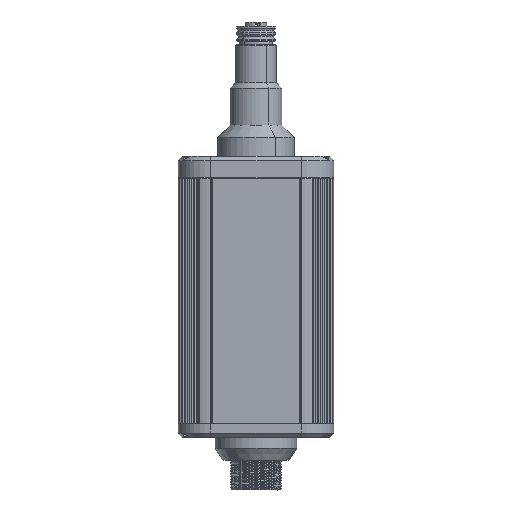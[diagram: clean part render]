
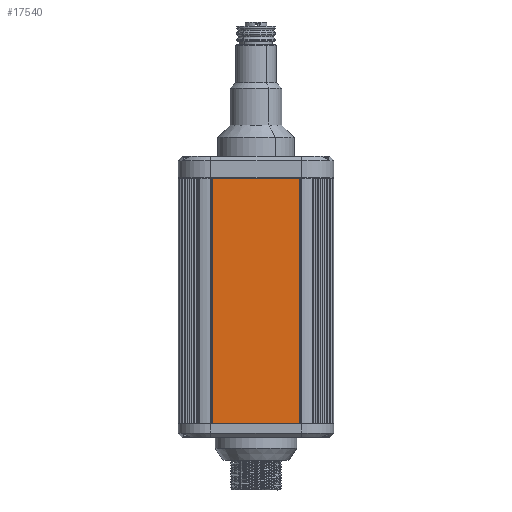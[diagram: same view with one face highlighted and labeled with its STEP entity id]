
A CAD part, front view. The second image highlights one B-rep face of the part: STEP entity #17540.
In plain terms, the highlighted planar face has unit normal (0, -1, 0).
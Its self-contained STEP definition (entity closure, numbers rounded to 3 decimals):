
#713 = VECTOR ( 'NONE', #27068, 1000. ) ;
#3486 = ORIENTED_EDGE ( 'NONE', *, *, #3744, .T. ) ;
#3744 = EDGE_CURVE ( 'NONE', #29144, #34667, #29254, .T. ) ;
#3845 = CARTESIAN_POINT ( 'NONE',  ( -16., -21.6, 0. ) ) ;
#4059 = EDGE_CURVE ( 'NONE', #34667, #22031, #16163, .T. ) ;
#5889 = VERTEX_POINT ( 'NONE', #25069 ) ;
#7284 = CARTESIAN_POINT ( 'NONE',  ( -16., -21.6, -90. ) ) ;
#7595 = DIRECTION ( 'NONE',  ( 0., 0., -1. ) ) ;
#7785 = CARTESIAN_POINT ( 'NONE',  ( 16., -21.6, 0. ) ) ;
#7904 = EDGE_CURVE ( 'NONE', #5889, #22031, #21544, .T. ) ;
#9443 = DIRECTION ( 'NONE',  ( 0., 0., -1. ) ) ;
#12550 = CARTESIAN_POINT ( 'NONE',  ( -16., -21.6, 0. ) ) ;
#12881 = ORIENTED_EDGE ( 'NONE', *, *, #4059, .T. ) ;
#13491 = EDGE_LOOP ( 'NONE', ( #12881, #29321, #22864, #3486 ) ) ;
#14648 = EDGE_CURVE ( 'NONE', #29144, #5889, #35502, .T. ) ;
#15859 = CARTESIAN_POINT ( 'NONE',  ( -16., -21.6, 0. ) ) ;
#16163 = LINE ( 'NONE', #30504, #33005 ) ;
#17540 = ADVANCED_FACE ( 'NONE', ( #31801 ), #29238, .F. ) ;
#18921 = DIRECTION ( 'NONE',  ( 0., 1., 0. ) ) ;
#20152 = VECTOR ( 'NONE', #9443, 1000. ) ;
#21544 = LINE ( 'NONE', #7785, #22544 ) ;
#22031 = VERTEX_POINT ( 'NONE', #24405 ) ;
#22544 = VECTOR ( 'NONE', #7595, 1000. ) ;
#22864 = ORIENTED_EDGE ( 'NONE', *, *, #14648, .F. ) ;
#24405 = CARTESIAN_POINT ( 'NONE',  ( 16., -21.6, -90. ) ) ;
#24980 = DIRECTION ( 'NONE',  ( 1., 0., 0. ) ) ;
#25069 = CARTESIAN_POINT ( 'NONE',  ( 16., -21.6, 0. ) ) ;
#27068 = DIRECTION ( 'NONE',  ( 1., 0., 0. ) ) ;
#29144 = VERTEX_POINT ( 'NONE', #3845 ) ;
#29238 = PLANE ( 'NONE',  #30876 ) ;
#29254 = LINE ( 'NONE', #12550, #20152 ) ;
#29321 = ORIENTED_EDGE ( 'NONE', *, *, #7904, .F. ) ;
#30504 = CARTESIAN_POINT ( 'NONE',  ( -16., -21.6, -90. ) ) ;
#30876 = AXIS2_PLACEMENT_3D ( 'NONE', #32164, #18921, #35812 ) ;
#31801 = FACE_OUTER_BOUND ( 'NONE', #13491, .T. ) ;
#32164 = CARTESIAN_POINT ( 'NONE',  ( -16., -21.6, 0. ) ) ;
#33005 = VECTOR ( 'NONE', #24980, 1000. ) ;
#34667 = VERTEX_POINT ( 'NONE', #7284 ) ;
#35502 = LINE ( 'NONE', #15859, #713 ) ;
#35812 = DIRECTION ( 'NONE',  ( 1., 0., 0. ) ) ;
